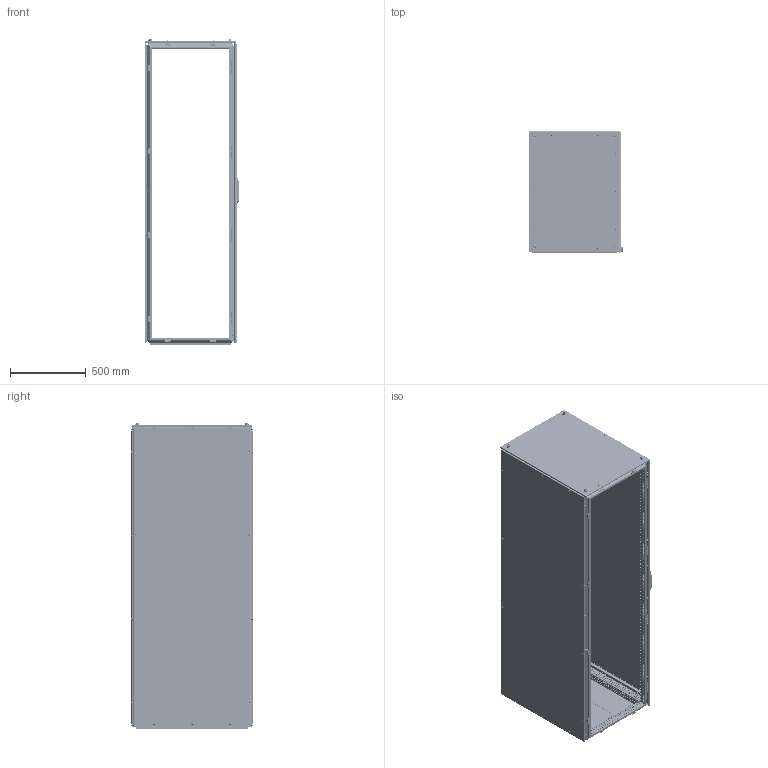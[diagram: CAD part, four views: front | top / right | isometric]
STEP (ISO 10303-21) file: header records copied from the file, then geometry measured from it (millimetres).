
FILE_DESCRIPTION(('STEP AP203'), '1');
FILE_NAME('ØÍÑ ÊÑ PRO II Êîðïóñ ÑÁ', '', ('UNSPECIFIED'), ('UNSPECIFIED'), 'C3D Converter', 'C3D Toolkit', '');
FILE_SCHEMA(('CONFIG_CONTROL_DESIGN'));
Length unit declared in the file: millimetre
Products named in the file (50): 3110.200.80.60; 3000; 3007.175; 3007.75; 3007.200; 3009.04; 3009.04.01; 3009.04.2; 3009.04.01.2; 3301; 3310; 3311; 3302; 3211; 3410; 3420; 3421; 3422.01; 3412; 3411; 2952; 3009.05; 3009.05.01; 3622.01; 3009.08; 3009.08.01
Assembly tree (311 placements, depth 5):
  3110.200.80.60
    3000
      3000
      (unnamed)  x96
      3007.175
      (unnamed)  x10
      3007.75
      3007.200
      3009.04  x10
        3009.04.01
        (unnamed)
        (unnamed)
      3009.04.2  x15
        3009.04.01.2
        (unnamed)
        (unnamed)
    3301
      3310
        3311
        (unnamed)
      (unnamed)  x10
      (unnamed)  x10
      (unnamed)  x4
      (unnamed)  x4
    3302
      3211
      (unnamed)  x2
      (unnamed)  x14
    3410
      3420
        3421
        3422.01  x4
        (unnamed)  x14
        (unnamed)  x8
        (unnamed)  x2
      3412  x2
      3411  x2
      (unnamed)  x4
      (unnamed)  x14
      (unnamed)  x22
      (unnamed)  x8
      2952
        (unnamed)
          (unnamed)
          (unnamed)
          (unnamed)
          (unnamed)
          (unnamed)
      (unnamed)  x2
      3009.05  x4
        3009.05.01
        (unnamed)
        (unnamed)
      3622.01  x4
      (unnamed)  x4
      3009.08  x4
        3009.08.01
        (unnamed)
        (unnamed)
Bounding box: 624.04 x 797.07 x 2016 mm (x, y, z)
Volume: 11093263.5 mm3; surface area: 14190500.4 mm2
Topology: 420 solids, 420 shells, 23130 faces, 63336 edges, 41686 vertices
Faces by surface type: plane 15677, cylinder 5622, cone 1211, torus 376, bspline 215, sphere 29
Full cylindrical faces by diameter (mm): 0.5 x22, 4.134 x144, 4.3 x2, 4.5 x2156, 4.8 x10, 4.917 x22, 5 x194, 5.2 x1, 5.5 x10, 5.8 x48, 6 x53, 6.1 x4, 6.6 x22, 6.75 x22, 6.8 x192, 7 x104, 7.3 x22, 7.5 x82, 8 x116, 8.3 x16, 8.5 x11, 9.2 x82, 10 x33, 10.106 x8, 10.5 x4, 11.5 x10, 12 x30, 13 x1, 13.5 x4, 14 x8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
Entity records: 481188 total; most frequent: CARTESIAN_POINT 104452, ORIENTED_EDGE 71996, DIRECTION 68558, EDGE_CURVE 35998, LINE 28414, VECTOR 28414, VERTEX_POINT 25237, EDGE_LOOP 24285
